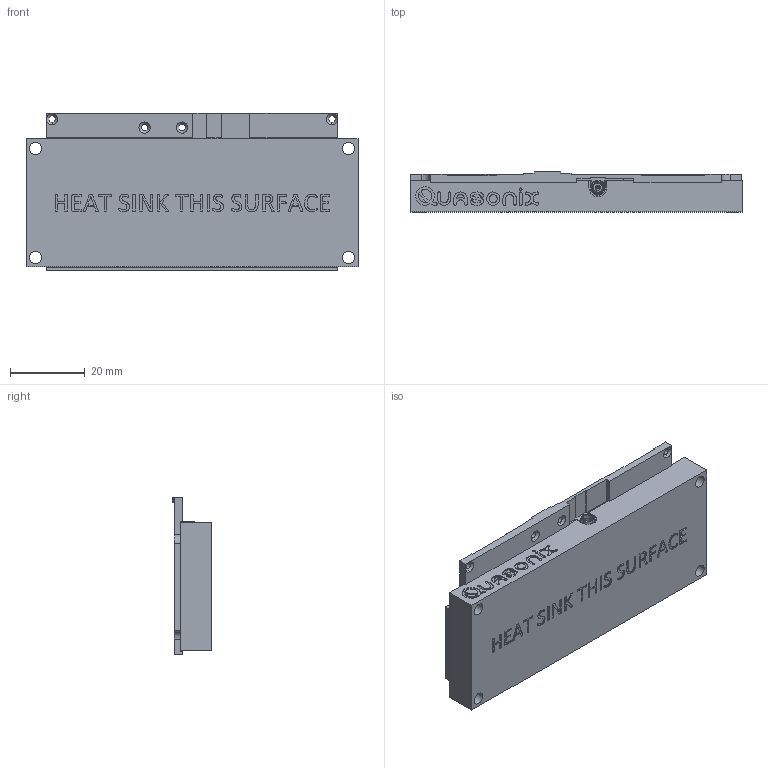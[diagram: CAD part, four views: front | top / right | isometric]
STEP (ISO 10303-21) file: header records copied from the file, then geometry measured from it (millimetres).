
FILE_DESCRIPTION (( 'STEP AP203' ), '1' );
FILE_NAME ('QS-TX-03ARXXX.STEP', '2024-05-02T18:16:38', ( '' ), ( '' ), 'SwSTEP 2.0', 'SolidWorks 2021', '' );
FILE_SCHEMA (( 'CONFIG_CONTROL_DESIGN' ));
Length unit declared in the file: inch
Products named in the file (1): QS-TX-03ARXXX
Bounding box: 88.9 x 10.67 x 42.27 mm (x, y, z)
Volume: 21093.4 mm3; surface area: 23040 mm2
Topology: 6 solids, 6 shells, 988 faces, 2663 edges, 1734 vertices
Faces by surface type: plane 537, bspline 224, cylinder 185, cone 42
Entity records: 38339 total; most frequent: CARTESIAN_POINT 14645, ORIENTED_EDGE 5282, DIRECTION 4108, EDGE_CURVE 2641, VECTOR 1798, LINE 1798, VERTEX_POINT 1734, AXIS2_PLACEMENT_3D 1155
